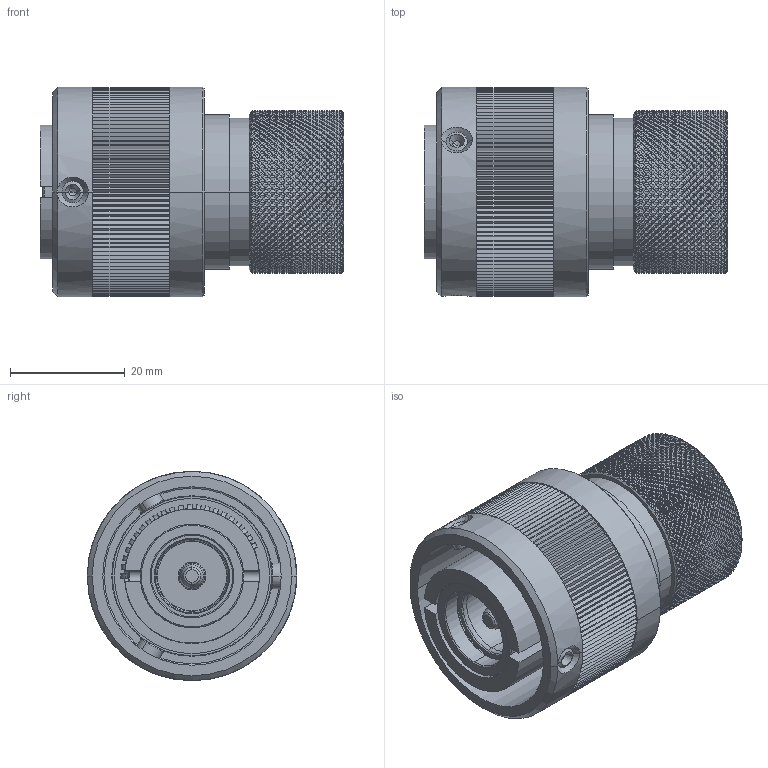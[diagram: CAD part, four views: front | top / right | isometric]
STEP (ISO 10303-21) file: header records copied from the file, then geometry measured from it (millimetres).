
FILE_DESCRIPTION((''),'2;1');
FILE_NAME('GCE3106E18M50P-B-T3_SW0001','2023-06-13T14:45:25',('paultorloting'),('NET AG system integration'),'CREO PARAMETRIC BY PTC INC, 2021404','CREO PARAMETRIC BY PTC INC, 2021404','');
FILE_SCHEMA(('AUTOMOTIVE_DESIGN { 1 0 10303 214 1 1 1 1 }'));
Products named in the file (1): GCE3106E18M50P-B-T3_SW0001
Bounding box: 53 x 36.5 x 36.5 mm (x, y, z)
Volume: 32058.3 mm3; surface area: 17505.9 mm2
Topology: 1 solids, 1 shells, 16664 faces, 37255 edges, 20565 vertices
Faces by surface type: bspline 6223, plane 4347, extrusion 4058, cylinder 1907, cone 107, torus 22
Entity records: 713847 total; most frequent: CARTESIAN_POINT 312419, ORIENTED_EDGE 74498, EDGE_CURVE 37249, B_SPLINE_CURVE_WITH_KNOTS 37245, DIRECTION 21232, VERTEX_POINT 20565, PRESENTATION_STYLE_ASSIGNMENT 20171, STYLED_ITEM 20171
